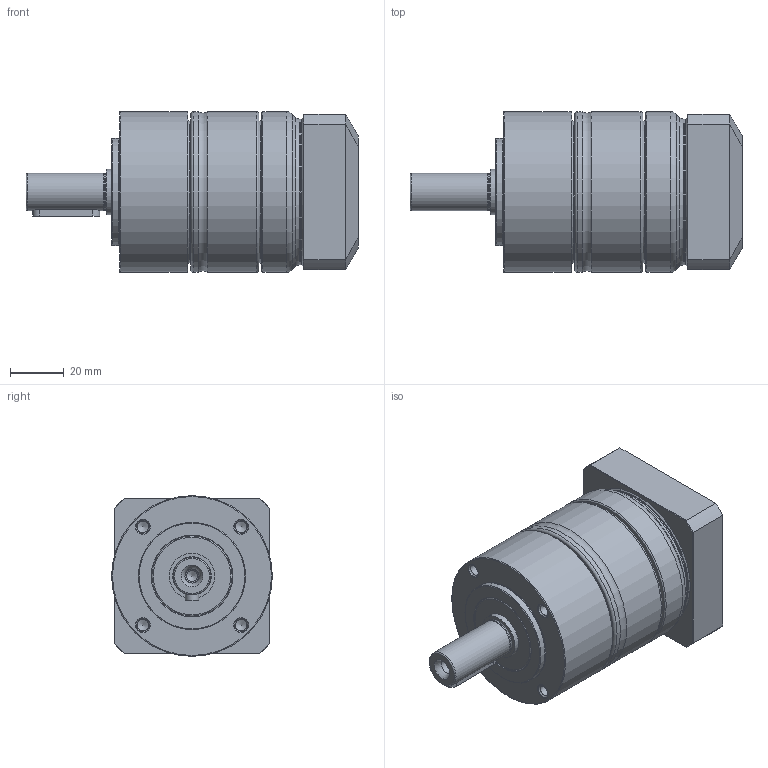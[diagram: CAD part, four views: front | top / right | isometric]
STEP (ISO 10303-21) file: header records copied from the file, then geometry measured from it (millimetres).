
FILE_DESCRIPTION(/* description */ (''),/* implementation_level */ '2;1');
FILE_NAME(/* name */ 'C:\ホームページ用データ\\X2\6E1B901F6A5F\X0\\PG2_060-XXX_NXM4.stp',/* time_stamp */ '2015-03-16T15:39:29+09:00',/* author */ ('jp4te01'),/* organization */ (''),/* preprocessor_version */ 'ST-DEVELOPER v15.2',/* originating_system */ 'Autodesk Inventor 2014',/* authorisation */ '');
FILE_SCHEMA (('AUTOMOTIVE_DESIGN { 1 0 10303 214 3 1 1 }'));
Length unit declared in the file: millimetre
Products named in the file (1): PG2_060-007_NXM4
Bounding box: 124 x 60 x 60 mm (x, y, z)
Volume: 188795.1 mm3; surface area: 67909.6 mm2
Topology: 8 solids, 22 shells, 303 faces, 653 edges, 411 vertices
Faces by surface type: cylinder 88, plane 85, cone 80, torus 46, bspline 4
Full cylindrical faces by diameter (mm): 2.5 x8, 3 x8, 4.2 x4, 4.3 x2, 5 x6, 5.3 x1, 5.6 x1, 6 x1, 7.4 x1, 8 x1, 8.1 x1, 9.5 x2, 10.5 x2, 12.5 x1, 13.6 x1, 14 x1, 17 x2, 20 x5, 22 x3, 30 x2, 32.5 x1, 35 x2, 37 x2, 37.2 x1, 38.5 x1, 39.8 x1, 40 x1, 44 x4, 44.2 x1, 44.5 x1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
Entity records: 7384 total; most frequent: CARTESIAN_POINT 1812, DIRECTION 1237, ORIENTED_EDGE 761, AXIS2_PLACEMENT_3D 592, EDGE_LOOP 556, EDGE_CURVE 395, VERTEX_POINT 347, ADVANCED_FACE 302
